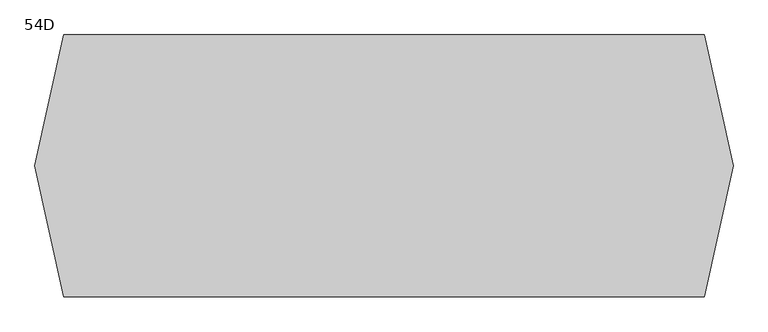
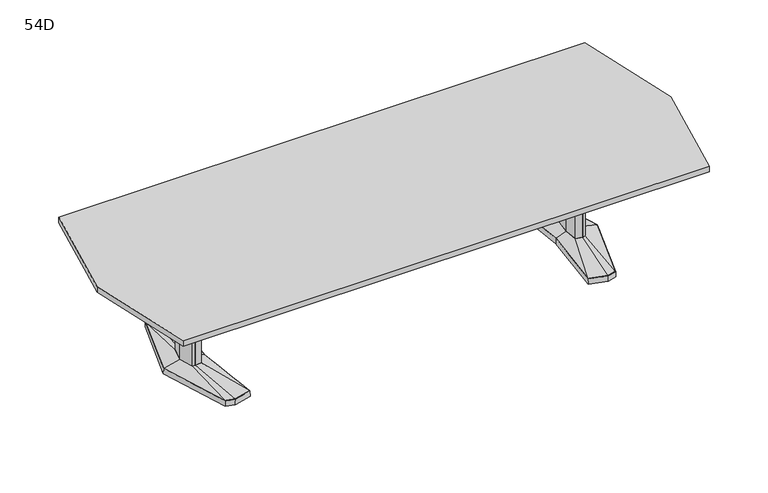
"""IFC4 building model written with IfcOpenShell, lengths in millimetres: furniture geometry, Coalesse_AM_Table_Conference_ETable2_Faceted_12ft_AluminiumBase : 54D."""

from ifc_helpers import new_model, si_unit, frame, origin, place, context, project, spatial, polyline, outline, extrude, faceted_brep, source, transform, mapped, element, save
from ifc_brep_helpers import plane_surface, spline_surface, advanced_brep


def furniture_54d_c281087e(model_context):
    return source(origin(), model_context, "Body", "SolidModel", [
        faceted_brep([(1165.3869335, 455.5848221, 38.1), (1055.8093777, 426.2263816, 38.1), (1096.9726217, 0.0, 38.1), (1055.8093777, -426.2263816, 38.1), (1165.3869335, -455.5848221, 38.1), (1221.5132896, -440.5478297, 38.1), (1358.8246769, 0.0, 38.1), (1221.5132896, 440.5478297, 38.1), (1165.3869254, 457.2283104, 3.175), (1222.7686972, 441.8549756, 3.175), (1360.4875, 0.0, 3.175), (1222.7686972, -441.8549756, 3.175), (1165.3869254, -457.2283104, 3.175), (1054.1, -427.4118891, 3.175), (1095.3777356, 0.0, 3.175), (1054.1, 427.4118891, 3.175), (1168.976365, 428.3273875, 3.175), (1063.9280728, 402.1057253, 3.175), (1072.046768, 377.985069, 3.175), (1172.5657966, 401.0699529, 3.175), (1223.1254225, 387.524361, 3.175), (1222.3193561, 414.0360954, 3.175), (1168.976365, -428.3273875, 3.175), (1222.3193561, -414.0360954, 3.175), (1223.1254225, -387.524361, 3.175), (1172.5657966, -401.0699529, 3.175), (1072.046768, -377.985069, 3.175), (1063.9280728, -402.1057253, 3.175), (1295.5716121, 0.0, 3.175), (1263.3022111, 120.4193755, 3.175), (1214.6549722, 133.471665, 3.175), (1134.7743026, 119.4176561, 3.175), (1123.6430966, 0.0, 3.175), (1134.7743026, -119.4176561, 3.175), (1214.6549722, -133.471665, 3.175), (1263.3022111, -120.4193755, 3.175), (1168.976365, 428.3273875, 0.0), (1222.3193561, 414.0360954, 0.0), (1223.1254225, 387.524361, 0.0), (1172.5657966, 401.0699529, 0.0), (1072.046768, 377.985069, 0.0), (1063.9280728, 402.1057253, 0.0), (1168.976365, -428.3273875, 0.0), (1063.9280728, -402.1057253, 0.0), (1072.046768, -377.985069, 0.0), (1172.5657966, -401.0699529, 0.0), (1223.1254225, -387.524361, 0.0), (1222.3193561, -414.0360954, 0.0), (1295.5716121, 0.0, 0.0), (1263.3022111, -120.4193755, 0.0), (1214.6549722, -133.471665, 0.0), (1134.7743026, -119.4176561, 0.0), (1123.6430966, 0.0, 0.0), (1134.7743026, 119.4176561, 0.0), (1214.6549722, 133.471665, 0.0), (1263.3022111, 120.4193755, 0.0)], [[[0, 1, 2, 3, 4, 5, 6, 7]], [[8, 9, 10, 11, 12, 13, 14, 15], [16, 17, 18, 19, 20, 21], [22, 23, 24, 25, 26, 27], [28, 29, 30, 31, 32, 33, 34, 35]], [[7, 9, 8, 0]], [[6, 10, 9, 7]], [[5, 11, 10, 6]], [[4, 12, 11, 5]], [[3, 13, 12, 4]], [[2, 14, 13, 3]], [[1, 15, 14, 2]], [[0, 8, 15, 1]], [[36, 37, 38, 39, 40, 41]], [[42, 43, 44, 45, 46, 47]], [[48, 49, 50, 51, 52, 53, 54, 55]], [[36, 16, 21, 37]], [[37, 21, 20, 38]], [[38, 20, 19, 39]], [[39, 19, 18, 40]], [[40, 18, 17, 41]], [[41, 17, 16, 36]], [[42, 22, 27, 43]], [[43, 27, 26, 44]], [[44, 26, 25, 45]], [[45, 25, 24, 46]], [[46, 24, 23, 47]], [[47, 23, 22, 42]], [[48, 28, 35, 49]], [[49, 35, 34, 50]], [[50, 34, 33, 51]], [[51, 33, 32, 52]], [[52, 32, 31, 53]], [[53, 31, 30, 54]], [[54, 30, 29, 55]], [[55, 29, 28, 48]]]),
        faceted_brep([(1256.1273336, 0.0, 698.5), (1232.1921046, 89.3188359, 698.5), (1215.3387484, 93.8406728, 698.5), (1212.9389011, 94.4845635, 698.5), (1170.011396, 86.9320037, 698.5), (1161.9082556, 0.0, 698.5), (1170.011396, -86.9320037, 698.5), (1212.9389011, -94.4845635, 698.5), (1215.3387484, -93.8406728, 698.5), (1232.1921046, -89.3188359, 698.5), (1256.1273336, 0.0, 63.5), (1232.1921046, -89.3188359, 63.5), (1215.3387484, -93.8406728, 63.5), (1212.9389011, -94.4845635, 63.5), (1170.011396, -86.9320037, 63.5), (1161.9082556, 0.0, 63.5), (1170.011396, 86.9320037, 63.5), (1212.9389011, 94.4845635, 63.5), (1215.3387484, 93.8406728, 63.5), (1232.1921046, 89.3188359, 63.5)], [[[0, 1, 2, 3, 4, 5, 6, 7, 8, 9]], [[10, 11, 12, 13, 14, 15, 16, 17, 18, 19]], [[9, 11, 10, 0]], [[8, 12, 11, 9]], [[7, 13, 12, 8]], [[6, 14, 13, 7]], [[5, 15, 14, 6]], [[4, 16, 15, 5]], [[3, 17, 16, 4]], [[2, 18, 17, 3]], [[1, 19, 18, 2]], [[0, 10, 19, 1]]]),
        advanced_brep(
        [(1212.9389011, 94.4845635, 63.5), (1170.011396, 86.9320037, 63.5), (1161.9082556, 0.0, 63.5), (1170.011396, -86.9320037, 63.5), (1212.9389011, -94.4845635, 63.5), (1232.1921046, -89.3188359, 63.5), (1256.1273336, 0.0, 63.5), (1232.1921046, 89.3188359, 63.5), (1165.3869335, 455.5848221, 38.1), (1221.5132896, 440.5478297, 38.1), (1358.8246769, 0.0, 38.1), (1221.5132896, -440.5478297, 38.1), (1165.3869335, -455.5848221, 38.1), (1055.8093777, -426.2263816, 38.1), (1096.9726217, 0.0, 38.1), (1055.8093777, 426.2263816, 38.1)],
        [
            (0, 1),
            (1, 2),
            (2, 3),
            (3, 4),
            (4, 5),
            (5, 6),
            (6, 7),
            (7, 0),
            (8, 9),
            (9, 10),
            (10, 11),
            (11, 12),
            (12, 13),
            (13, 14),
            (14, 15),
            (15, 8),
            (8, 0),
            (7, 9),
            (6, 10),
            (5, 11),
            (4, 12),
            (3, 13),
            (2, 14),
            (1, 15),
        ],
        [
            plane_surface(frame((1206.0400491, 0.0, 63.5), z_axis=(0.0, 0.0, 1.0), x_axis=(-0.25884244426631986, -0.9659195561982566, 0.0))),
            plane_surface(frame((1167.6520625, 0.0, 38.1), z_axis=(0.0, 0.0, -1.0), x_axis=(-0.25884244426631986, -0.9659195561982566, 0.0))),
            spline_surface(1, 1, [[(1165.3869335, 455.5848221, 38.1), (1221.5132896, 440.5478297, 38.1)], [(1212.9389011, 94.4845635, 63.5), (1232.1921046, 89.3188359, 63.5)]], [2, 2], [2, 2], [0.0, 1.0], [0.0, 1.0]),
            spline_surface(1, 1, [[(1221.5132896, 440.5478297, 38.1), (1358.8246769, 0.0, 38.1)], [(1232.1921046, 89.3188359, 63.5), (1256.1273336, 0.0, 63.5)]], [2, 2], [2, 2], [0.0, 1.0], [0.0, 1.0]),
            spline_surface(1, 1, [[(1358.8246769, 0.0, 38.1), (1221.5132896, -440.5478297, 38.1)], [(1256.1273336, 0.0, 63.5), (1232.1921046, -89.3188359, 63.5)]], [2, 2], [2, 2], [0.0, 1.0], [0.0, 1.0]),
            spline_surface(1, 1, [[(1221.5132896, -440.5478297, 38.1), (1165.3869335, -455.5848221, 38.1)], [(1232.1921046, -89.3188359, 63.5), (1212.9389011, -94.4845635, 63.5)]], [2, 2], [2, 2], [0.0, 1.0], [0.0, 1.0]),
            spline_surface(1, 1, [[(1165.3869335, -455.5848221, 38.1), (1055.8093777, -426.2263816, 38.1)], [(1212.9389011, -94.4845635, 63.5), (1170.011396, -86.9320037, 63.5)]], [2, 2], [2, 2], [0.0, 1.0], [0.0, 1.0]),
            spline_surface(1, 1, [[(1055.8093777, -426.2263816, 38.1), (1096.9726217, 0.0, 38.1)], [(1170.011396, -86.9320037, 63.5), (1161.9082556, 0.0, 63.5)]], [2, 2], [2, 2], [0.0, 1.0], [0.0, 1.0]),
            spline_surface(1, 1, [[(1096.9726217, 0.0, 38.1), (1055.8093777, 426.2263816, 38.1)], [(1161.9082556, 0.0, 63.5), (1170.011396, 86.9320037, 63.5)]], [2, 2], [2, 2], [0.0, 1.0], [0.0, 1.0]),
            spline_surface(1, 1, [[(1055.8093777, 426.2263816, 38.1), (1165.3869335, 455.5848221, 38.1)], [(1170.011396, 86.9320037, 63.5), (1212.9389011, 94.4845635, 63.5)]], [2, 2], [2, 2], [0.0, 1.0], [0.0, 1.0]),
        ],
        [
            (0, [[1, 2, 3, 4, 5, 6, 7, 8]]),
            (1, [[9, 10, 11, 12, 13, 14, 15, 16]]),
            (2, [[17, -8, 18, -9]]),
            (3, [[-18, -7, 19, -10]]),
            (4, [[-19, -6, 20, -11]]),
            (5, [[-20, -5, 21, -12]]),
            (6, [[-21, -4, 22, -13]]),
            (7, [[-22, -3, 23, -14]]),
            (8, [[-23, -2, 24, -15]]),
            (9, [[-24, -1, -17, -16]]),
        ],
    ),
        faceted_brep([(-1210.6306835, 455.5848221, 38.1), (-1266.7570396, 440.5478297, 38.1), (-1404.0684269, 0.0, 38.1), (-1266.7570396, -440.5478297, 38.1), (-1210.6306835, -455.5848221, 38.1), (-1101.0531277, -426.2263816, 38.1), (-1142.2163717, 0.0, 38.1), (-1101.0531277, 426.2263816, 38.1), (-1210.6306754, 457.2283104, 3.175), (-1099.34375, 427.4118891, 3.175), (-1140.6214856, 0.0, 3.175), (-1099.34375, -427.4118891, 3.175), (-1210.6306754, -457.2283104, 3.175), (-1268.0124472, -441.8549756, 3.175), (-1405.73125, 0.0, 3.175), (-1268.0124472, 441.8549756, 3.175), (-1214.220115, 428.3273875, 3.175), (-1267.5631061, 414.0360954, 3.175), (-1268.3691725, 387.524361, 3.175), (-1217.8095466, 401.0699529, 3.175), (-1117.290518, 377.985069, 3.175), (-1109.1718228, 402.1057253, 3.175), (-1214.220115, -428.3273875, 3.175), (-1109.1718228, -402.1057253, 3.175), (-1117.290518, -377.985069, 3.175), (-1217.8095466, -401.0699529, 3.175), (-1268.3691725, -387.524361, 3.175), (-1267.5631061, -414.0360954, 3.175), (-1340.8153621, 0.0, 3.175), (-1308.5459611, -120.4193755, 3.175), (-1259.8987222, -133.471665, 3.175), (-1180.0180526, -119.4176561, 3.175), (-1168.8868466, 0.0, 3.175), (-1180.0180526, 119.4176561, 3.175), (-1259.8987222, 133.471665, 3.175), (-1308.5459611, 120.4193755, 3.175), (-1214.220115, 428.3273875, 0.0), (-1109.1718228, 402.1057253, 0.0), (-1117.290518, 377.985069, 0.0), (-1217.8095466, 401.0699529, 0.0), (-1268.3691725, 387.524361, 0.0), (-1267.5631061, 414.0360954, 0.0), (-1214.220115, -428.3273875, 0.0), (-1267.5631061, -414.0360954, 0.0), (-1268.3691725, -387.524361, 0.0), (-1217.8095466, -401.0699529, 0.0), (-1117.290518, -377.985069, 0.0), (-1109.1718228, -402.1057253, 0.0), (-1340.8153621, 0.0, 0.0), (-1308.5459611, 120.4193755, 0.0), (-1259.8987222, 133.471665, 0.0), (-1180.0180526, 119.4176561, 0.0), (-1168.8868466, 0.0, 0.0), (-1180.0180526, -119.4176561, 0.0), (-1259.8987222, -133.471665, 0.0), (-1308.5459611, -120.4193755, 0.0)], [[[0, 1, 2, 3, 4, 5, 6, 7]], [[8, 9, 10, 11, 12, 13, 14, 15], [16, 17, 18, 19, 20, 21], [22, 23, 24, 25, 26, 27], [28, 29, 30, 31, 32, 33, 34, 35]], [[1, 0, 8, 15]], [[2, 1, 15, 14]], [[3, 2, 14, 13]], [[4, 3, 13, 12]], [[5, 4, 12, 11]], [[6, 5, 11, 10]], [[7, 6, 10, 9]], [[0, 7, 9, 8]], [[36, 37, 38, 39, 40, 41]], [[42, 43, 44, 45, 46, 47]], [[48, 49, 50, 51, 52, 53, 54, 55]], [[36, 41, 17, 16]], [[41, 40, 18, 17]], [[40, 39, 19, 18]], [[39, 38, 20, 19]], [[38, 37, 21, 20]], [[37, 36, 16, 21]], [[42, 47, 23, 22]], [[47, 46, 24, 23]], [[46, 45, 25, 24]], [[45, 44, 26, 25]], [[44, 43, 27, 26]], [[43, 42, 22, 27]], [[48, 55, 29, 28]], [[55, 54, 30, 29]], [[54, 53, 31, 30]], [[53, 52, 32, 31]], [[52, 51, 33, 32]], [[51, 50, 34, 33]], [[50, 49, 35, 34]], [[49, 48, 28, 35]]]),
        faceted_brep([(-1301.3710836, 0.0, 698.5), (-1277.4358546, -89.3188359, 698.5), (-1260.5824984, -93.8406728, 698.5), (-1258.1826511, -94.4845635, 698.5), (-1215.255146, -86.9320037, 698.5), (-1207.1520056, 0.0, 698.5), (-1215.255146, 86.9320037, 698.5), (-1258.1826511, 94.4845635, 698.5), (-1260.5824984, 93.8406728, 698.5), (-1277.4358546, 89.3188359, 698.5), (-1301.3710836, 0.0, 63.5), (-1277.4358546, 89.3188359, 63.5), (-1260.5824984, 93.8406728, 63.5), (-1258.1826511, 94.4845635, 63.5), (-1215.255146, 86.9320037, 63.5), (-1207.1520056, 0.0, 63.5), (-1215.255146, -86.9320037, 63.5), (-1258.1826511, -94.4845635, 63.5), (-1260.5824984, -93.8406728, 63.5), (-1277.4358546, -89.3188359, 63.5)], [[[0, 1, 2, 3, 4, 5, 6, 7, 8, 9]], [[10, 11, 12, 13, 14, 15, 16, 17, 18, 19]], [[1, 0, 10, 19]], [[2, 1, 19, 18]], [[3, 2, 18, 17]], [[4, 3, 17, 16]], [[5, 4, 16, 15]], [[6, 5, 15, 14]], [[7, 6, 14, 13]], [[8, 7, 13, 12]], [[9, 8, 12, 11]], [[0, 9, 11, 10]]]),
        advanced_brep(
        [(-1258.1826511, 94.4845635, 63.5), (-1277.4358546, 89.3188359, 63.5), (-1301.3710836, 0.0, 63.5), (-1277.4358546, -89.3188359, 63.5), (-1258.1826511, -94.4845635, 63.5), (-1215.255146, -86.9320037, 63.5), (-1207.1520056, 0.0, 63.5), (-1215.255146, 86.9320037, 63.5), (-1210.6306835, 455.5848221, 38.1), (-1101.0531277, 426.2263816, 38.1), (-1142.2163717, 0.0, 38.1), (-1101.0531277, -426.2263816, 38.1), (-1210.6306835, -455.5848221, 38.1), (-1266.7570396, -440.5478297, 38.1), (-1404.0684269, 0.0, 38.1), (-1266.7570396, 440.5478297, 38.1)],
        [
            (0, 1),
            (1, 2),
            (2, 3),
            (3, 4),
            (4, 5),
            (5, 6),
            (6, 7),
            (7, 0),
            (8, 9),
            (9, 10),
            (10, 11),
            (11, 12),
            (12, 13),
            (13, 14),
            (14, 15),
            (15, 8),
            (15, 1),
            (0, 8),
            (14, 2),
            (13, 3),
            (12, 4),
            (11, 5),
            (10, 6),
            (9, 7),
        ],
        [
            plane_surface(frame((-1251.2837991, 0.0, 63.5), z_axis=(0.0, 0.0, 1.0), x_axis=(0.25884244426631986, -0.9659195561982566, 0.0))),
            plane_surface(frame((-1212.8958125, 0.0, 38.1), z_axis=(0.0, 0.0, -1.0), x_axis=(0.25884244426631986, -0.9659195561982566, 0.0))),
            spline_surface(1, 1, [[(-1210.6306835, 455.5848221, 38.1), (-1258.1826511, 94.4845635, 63.5)], [(-1266.7570396, 440.5478297, 38.1), (-1277.4358546, 89.3188359, 63.5)]], [2, 2], [2, 2], [0.0, 1.0], [0.0, 1.0]),
            spline_surface(1, 1, [[(-1266.7570396, 440.5478297, 38.1), (-1277.4358546, 89.3188359, 63.5)], [(-1404.0684269, 0.0, 38.1), (-1301.3710836, 0.0, 63.5)]], [2, 2], [2, 2], [0.0, 1.0], [0.0, 1.0]),
            spline_surface(1, 1, [[(-1404.0684269, 0.0, 38.1), (-1301.3710836, 0.0, 63.5)], [(-1266.7570396, -440.5478297, 38.1), (-1277.4358546, -89.3188359, 63.5)]], [2, 2], [2, 2], [0.0, 1.0], [0.0, 1.0]),
            spline_surface(1, 1, [[(-1266.7570396, -440.5478297, 38.1), (-1277.4358546, -89.3188359, 63.5)], [(-1210.6306835, -455.5848221, 38.1), (-1258.1826511, -94.4845635, 63.5)]], [2, 2], [2, 2], [0.0, 1.0], [0.0, 1.0]),
            spline_surface(1, 1, [[(-1210.6306835, -455.5848221, 38.1), (-1258.1826511, -94.4845635, 63.5)], [(-1101.0531277, -426.2263816, 38.1), (-1215.255146, -86.9320037, 63.5)]], [2, 2], [2, 2], [0.0, 1.0], [0.0, 1.0]),
            spline_surface(1, 1, [[(-1101.0531277, -426.2263816, 38.1), (-1215.255146, -86.9320037, 63.5)], [(-1142.2163717, 0.0, 38.1), (-1207.1520056, 0.0, 63.5)]], [2, 2], [2, 2], [0.0, 1.0], [0.0, 1.0]),
            spline_surface(1, 1, [[(-1142.2163717, 0.0, 38.1), (-1207.1520056, 0.0, 63.5)], [(-1101.0531277, 426.2263816, 38.1), (-1215.255146, 86.9320037, 63.5)]], [2, 2], [2, 2], [0.0, 1.0], [0.0, 1.0]),
            spline_surface(1, 1, [[(-1101.0531277, 426.2263816, 38.1), (-1215.255146, 86.9320037, 63.5)], [(-1210.6306835, 455.5848221, 38.1), (-1258.1826511, 94.4845635, 63.5)]], [2, 2], [2, 2], [0.0, 1.0], [0.0, 1.0]),
        ],
        [
            (0, [[1, 2, 3, 4, 5, 6, 7, 8]]),
            (1, [[9, 10, 11, 12, 13, 14, 15, 16]]),
            (2, [[-16, 17, -1, 18]]),
            (3, [[-15, 19, -2, -17]]),
            (4, [[-14, 20, -3, -19]]),
            (5, [[-13, 21, -4, -20]]),
            (6, [[-12, 22, -5, -21]]),
            (7, [[-11, 23, -6, -22]]),
            (8, [[-10, 24, -7, -23]]),
            (9, [[-9, -18, -8, -24]]),
        ],
    ),
        extrude(outline(polyline([(-1828.8, 0.0), (-1676.7609518, 685.8), (1676.7609518, 685.8), (1828.8, 0.0), (1676.7609518, -685.8), (-1676.7609518, -685.8), (-1828.8, 0.0)])), frame((0.0, 0.0, 698.5), z_axis=(0.0, 0.0, 1.0), x_axis=(1.0, 0.0, 0.0)), (0.0, 0.0, 1.0), 38.1),
        extrude(outline(polyline([(96.8375, 698.5), (103.1875, 698.5), (103.1875, 476.25), (-103.1875, 476.25), (-103.1875, 698.5), (-96.8375, 698.5), (-96.8375, 482.6), (96.8375, 482.6), (96.8375, 698.5)])), frame((-1207.29375, 0.0, 0.0), z_axis=(1.0, 0.0, 0.0), x_axis=(0.0, 1.0, 0.0)), (0.0, 0.0, 1.0), 2414.5875),
    ])


if __name__ == "__main__":
    model = new_model("IFC4")
    model_context = context("Model", 3, world=origin())
    ifc_project = project(units=[si_unit("LENGTHUNIT", "METRE", prefix="MILLI")], contexts=[model_context])
    site = spatial("IfcSite", under=ifc_project)
    building = spatial("IfcBuilding", under=site)
    placement = place(None, origin())
    furniture_54d_shape = furniture_54d_c281087e(model_context)
    element("IfcFurniture", 1, ObjectType="Coalesse_AM_Table_Conference_ETable2_Faceted_12ft_AluminiumBase : 54D", at=placement, inside=building, context=model_context, shape_type="MappedRepresentation", body=[
        mapped(furniture_54d_shape, transform((0.0, 0.0, 0.0), x_axis=(1.0, 0.0, 0.0), y_axis=(0.0, 1.0, 0.0), z_axis=(0.0, 0.0, 1.0))),
    ])
    save(model, "model.ifc")
